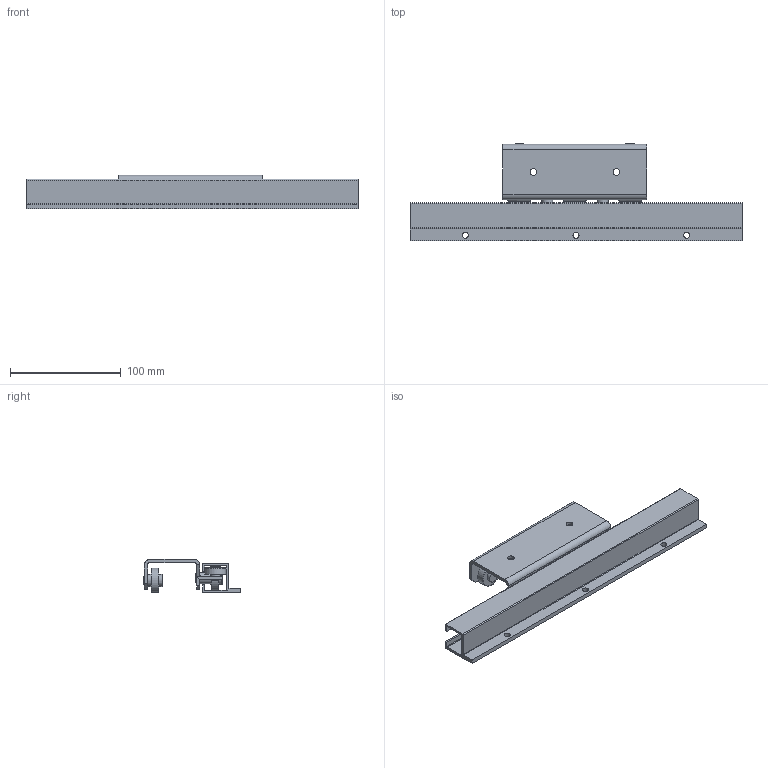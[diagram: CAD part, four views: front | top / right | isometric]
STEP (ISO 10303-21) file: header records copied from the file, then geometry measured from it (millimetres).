
FILE_DESCRIPTION((''),'2;1');
FILE_NAME('D:\製品 (図面)\カタログ用3D\ESH\ESH8.stp','2011-06-08T14:37:56',('Tsuchiya'),(''),'Autodesk Inventor 10','Autodesk Inventor 10','');
FILE_SCHEMA(('AUTOMOTIVE_DESIGN { 1 0 10303 214 1 1 1 1 }'));
Length unit declared in the file: millimetre
Products named in the file (3): ESH8; ESH8(レール); ESH8(キャリッジ)
Assembly tree (2 placements, depth 2):
  ESH8
    ESH8(レール)
    ESH8(キャリッジ)
Bounding box: 300 x 88 x 30 mm (x, y, z)
Volume: 112886.9 mm3; surface area: 88405.1 mm2
Topology: 2 solids, 2 shells, 185 faces, 422 edges, 270 vertices
Faces by surface type: plane 83, cylinder 43, bspline 38, cone 13, torus 8
Full cylindrical faces by diameter (mm): 5 x2, 5.5 x3, 8 x3, 9 x3, 10 x1, 11 x3, 19 x2, 22 x2
Entity records: 5496 total; most frequent: CARTESIAN_POINT 1588, DIRECTION 782, ORIENTED_EDGE 706, EDGE_CURVE 353, AXIS2_PLACEMENT_3D 297, EDGE_LOOP 284, VERTEX_POINT 261, VECTOR 188
